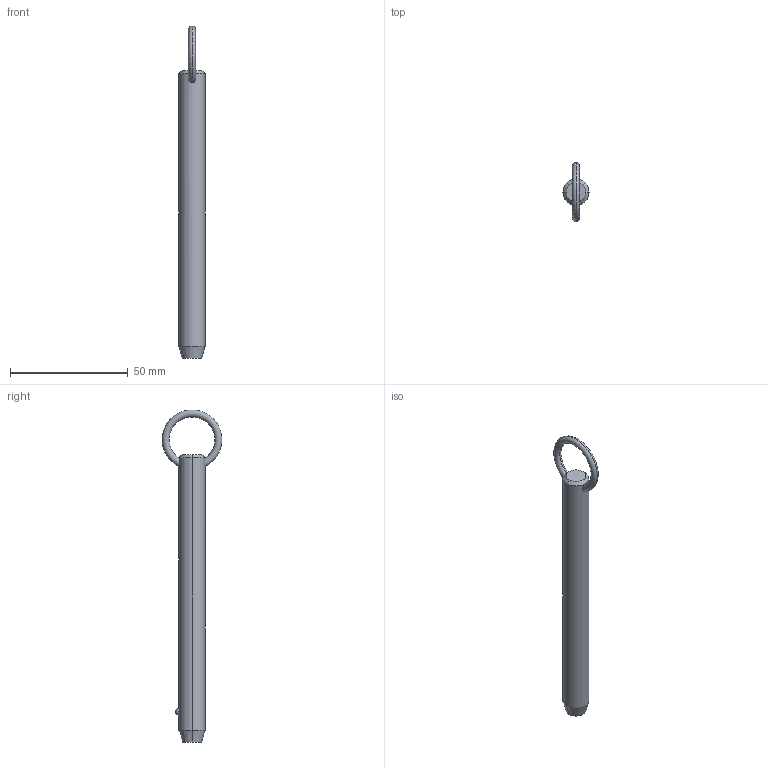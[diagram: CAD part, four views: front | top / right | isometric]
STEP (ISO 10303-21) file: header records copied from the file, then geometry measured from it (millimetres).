
FILE_DESCRIPTION (( 'STEP AP203' ), '1' );
FILE_NAME ('P1250.050-400.step', '2019-07-29T20:36:08', ( '' ), ( '' ), 'SwSTEP 2.0', 'SolidWorks 2017', '' );
FILE_SCHEMA (( 'CONFIG_CONTROL_DESIGN' ));
Length unit declared in the file: millimetre
Products named in the file (1): P1250.050-400
Bounding box: 11.1 x 25.32 x 141.15 mm (x, y, z)
Volume: 12107.9 mm3; surface area: 4914 mm2
Topology: 1 solids, 1 shells, 12 faces, 28 edges, 17 vertices
Faces by surface type: cone 4, torus 2, sphere 2, cylinder 2, plane 2
Entity records: 523 total; most frequent: CARTESIAN_POINT 190, DIRECTION 56, ORIENTED_EDGE 48, AXIS2_PLACEMENT_3D 25, EDGE_CURVE 24, VERTEX_POINT 15, EDGE_LOOP 15, CIRCLE 12
